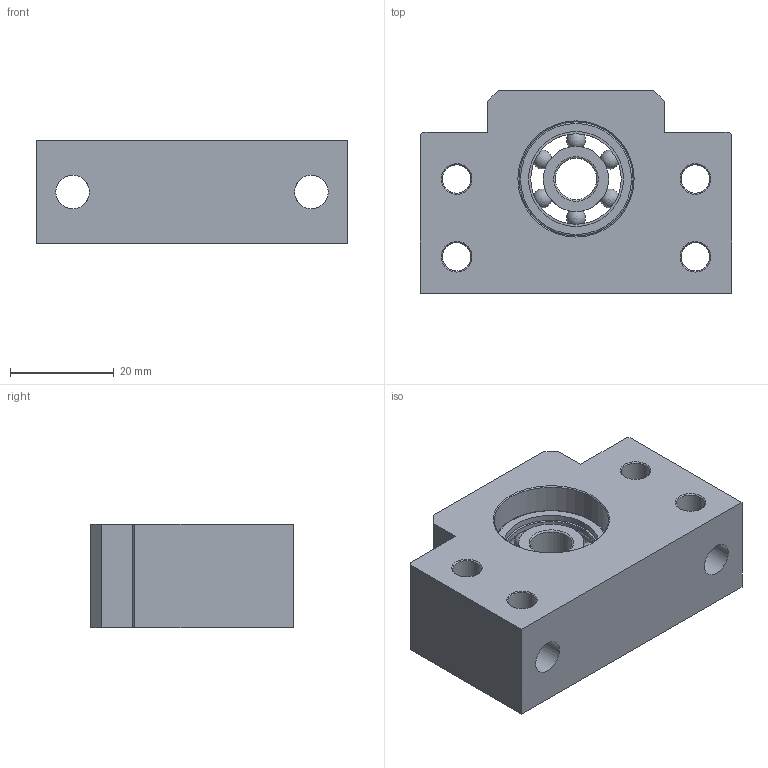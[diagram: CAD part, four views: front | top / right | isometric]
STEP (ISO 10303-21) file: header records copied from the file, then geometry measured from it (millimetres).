
FILE_DESCRIPTION(/* description */ (''),/* implementation_level */ '2;1');
FILE_NAME(/* name */ 'C:\Users\Workstation\ownCloud\Kamp und Kötter\Artikel\Lagerset Stehlager (BK-BF)\02_STEP-Dateien\Steh-Loslager KUS12.stp',/* time_stamp */ '2018-05-28T11:32:21+02:00',/* author */ ('Workstation'),/* organization */ (''),/* preprocessor_version */ 'ST-DEVELOPER v17',/* originating_system */ 'Autodesk Inventor 2019',/* authorisation */ '');
FILE_SCHEMA (('AUTOMOTIVE_DESIGN { 1 0 10303 214 3 1 1 }'));
Length unit declared in the file: millimetre
Products named in the file (3): BF10-Zusammenbau; BF12-Grundkörper; Bearing 608-2RZ GB/T 276-94
Assembly tree (2 placements, depth 2):
  BF10-Zusammenbau
    BF12-Grundkörper
    Bearing 608-2RZ GB/T 276-94
Bounding box: 60 x 39 x 20 mm (x, y, z)
Volume: 32413.8 mm3; surface area: 12654.7 mm2
Topology: 9 solids, 9 shells, 77 faces, 218 edges, 151 vertices
Faces by surface type: plane 22, cylinder 21, torus 16, cone 12, sphere 6
Full cylindrical faces by diameter (mm): 5.5 x8, 6.5 x2, 8 x1, 10.8 x2, 12.564 x2, 17.436 x2, 18.308 x2, 22 x2
Entity records: 3150 total; most frequent: CARTESIAN_POINT 811, DIRECTION 499, ORIENTED_EDGE 436, EDGE_CURVE 218, AXIS2_PLACEMENT_3D 215, VERTEX_POINT 175, CIRCLE 133, EDGE_LOOP 119
